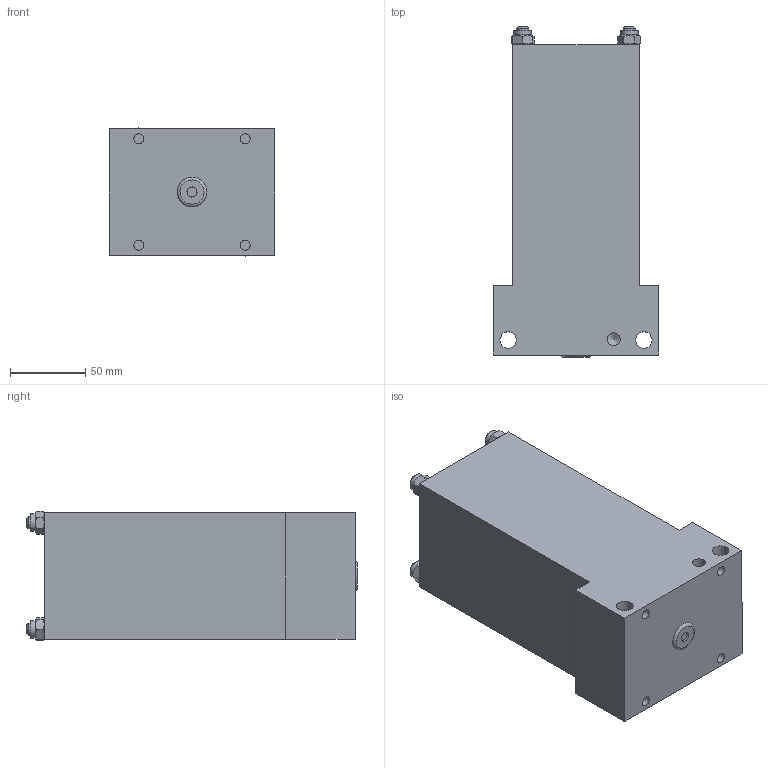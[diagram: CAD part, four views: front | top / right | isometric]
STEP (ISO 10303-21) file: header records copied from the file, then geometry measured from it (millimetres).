
FILE_DESCRIPTION((''),'2;1');
FILE_NAME('C:\VaultWork\Zeichnungen\Maßblätter\Multizylinder\M 75\M75-30\M01797-4-0 Maßblatt Multizylinder M75-5-20.stp','2013-06-19T16:44:18',('Sergeew'),(''),'Autodesk Inventor 2012','Autodesk Inventor 2012','');
FILE_SCHEMA(('AUTOMOTIVE_DESIGN { 1 0 10303 214 1 1 1 1 }'));
Length unit declared in the file: millimetre
Products named in the file (1): M01797-4-0 Maßblatt Multizylinder M75-5-20
Bounding box: 110 x 219.5 x 85.72 mm (x, y, z)
Volume: 1535169.8 mm3; surface area: 103664.1 mm2
Topology: 1 solids, 5 shells, 108 faces, 235 edges, 156 vertices
Faces by surface type: plane 61, cylinder 25, cone 21, torus 1
Full cylindrical faces by diameter (mm): 6.647 x5, 8 x8, 8.566 x2, 9 x4, 11 x2, 11.6 x4
Entity records: 2578 total; most frequent: CARTESIAN_POINT 501, DIRECTION 402, ORIENTED_EDGE 328, EDGE_LOOP 178, AXIS2_PLACEMENT_3D 177, EDGE_CURVE 164, VERTEX_POINT 132, FACE_OUTER_BOUND 108
